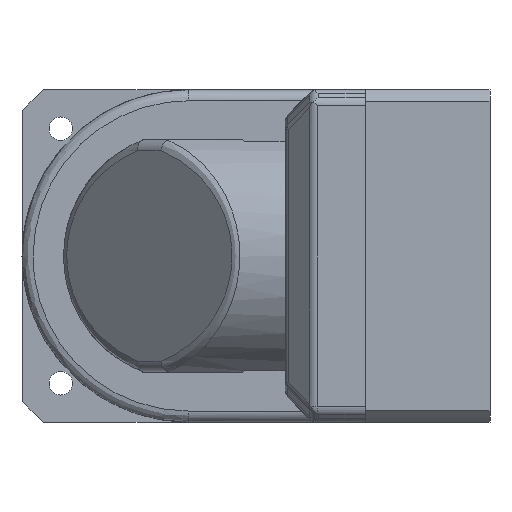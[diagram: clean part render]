
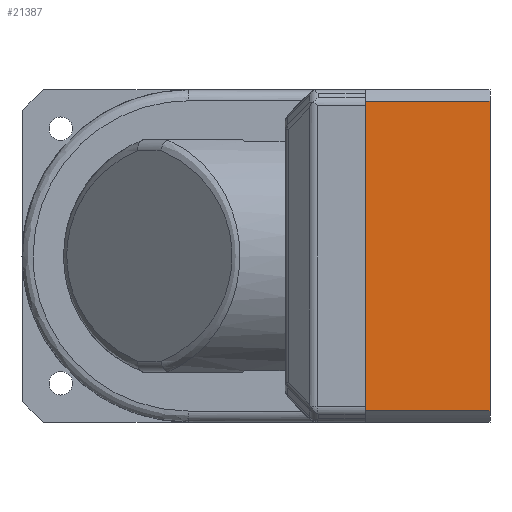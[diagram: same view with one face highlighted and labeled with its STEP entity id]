
A CAD part, front view. The second image highlights one B-rep face of the part: STEP entity #21387.
In plain terms, the highlighted planar face has unit normal (0, -1, 0).
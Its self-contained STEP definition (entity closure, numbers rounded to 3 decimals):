
#402 = CARTESIAN_POINT ( 'NONE',  ( -55.893, -60., 0. ) ) ;
#710 = ORIENTED_EDGE ( 'NONE', *, *, #22779, .T. ) ;
#1315 = ORIENTED_EDGE ( 'NONE', *, *, #30928, .T. ) ;
#2608 = AXIS2_PLACEMENT_3D ( 'NONE', #15294, #45654, #22910 ) ;
#3010 = CARTESIAN_POINT ( 'NONE',  ( 55.893, -60., -45. ) ) ;
#3161 = CARTESIAN_POINT ( 'NONE',  ( -55.893, -60., 0. ) ) ;
#5188 = CARTESIAN_POINT ( 'NONE',  ( 55.893, -60., 0. ) ) ;
#6067 = CARTESIAN_POINT ( 'NONE',  ( 0., -60., 0. ) ) ;
#6720 = VERTEX_POINT ( 'NONE', #21836 ) ;
#7124 = FACE_OUTER_BOUND ( 'NONE', #28005, .T. ) ;
#7248 = VERTEX_POINT ( 'NONE', #5188 ) ;
#7321 = VECTOR ( 'NONE', #41169, 1000. ) ;
#9903 = DIRECTION ( 'NONE',  ( -1., 0., 0. ) ) ;
#14212 = VECTOR ( 'NONE', #9903, 1000. ) ;
#15294 = CARTESIAN_POINT ( 'NONE',  ( -60., -60., -45. ) ) ;
#18829 = EDGE_CURVE ( 'NONE', #6720, #41537, #47696, .T. ) ;
#19088 = PLANE ( 'NONE',  #2608 ) ;
#20451 = CARTESIAN_POINT ( 'NONE',  ( 55.893, -60., -45. ) ) ;
#21387 = ADVANCED_FACE ( 'NONE', ( #7124 ), #19088, .T. ) ;
#21836 = CARTESIAN_POINT ( 'NONE',  ( -55.893, -60., -45. ) ) ;
#22113 = ORIENTED_EDGE ( 'NONE', *, *, #18829, .F. ) ;
#22779 = EDGE_CURVE ( 'NONE', #47790, #7248, #40900, .T. ) ;
#22910 = DIRECTION ( 'NONE',  ( 0., 0., -1. ) ) ;
#23064 = VECTOR ( 'NONE', #25709, 1000. ) ;
#25709 = DIRECTION ( 'NONE',  ( 0., 0., 1. ) ) ;
#26375 = ORIENTED_EDGE ( 'NONE', *, *, #46741, .T. ) ;
#28005 = EDGE_LOOP ( 'NONE', ( #22113, #26375, #710, #1315 ) ) ;
#29124 = VECTOR ( 'NONE', #42399, 1000. ) ;
#30928 = EDGE_CURVE ( 'NONE', #7248, #41537, #44498, .T. ) ;
#34941 = CARTESIAN_POINT ( 'NONE',  ( -60., -60., -45. ) ) ;
#40900 = LINE ( 'NONE', #3010, #23064 ) ;
#41169 = DIRECTION ( 'NONE',  ( 0., 0., 1. ) ) ;
#41537 = VERTEX_POINT ( 'NONE', #402 ) ;
#42399 = DIRECTION ( 'NONE',  ( 1., 0., 0. ) ) ;
#44498 = LINE ( 'NONE', #6067, #14212 ) ;
#45654 = DIRECTION ( 'NONE',  ( 0., -1., 0. ) ) ;
#46741 = EDGE_CURVE ( 'NONE', #6720, #47790, #48139, .T. ) ;
#47696 = LINE ( 'NONE', #3161, #7321 ) ;
#47790 = VERTEX_POINT ( 'NONE', #20451 ) ;
#48139 = LINE ( 'NONE', #34941, #29124 ) ;
